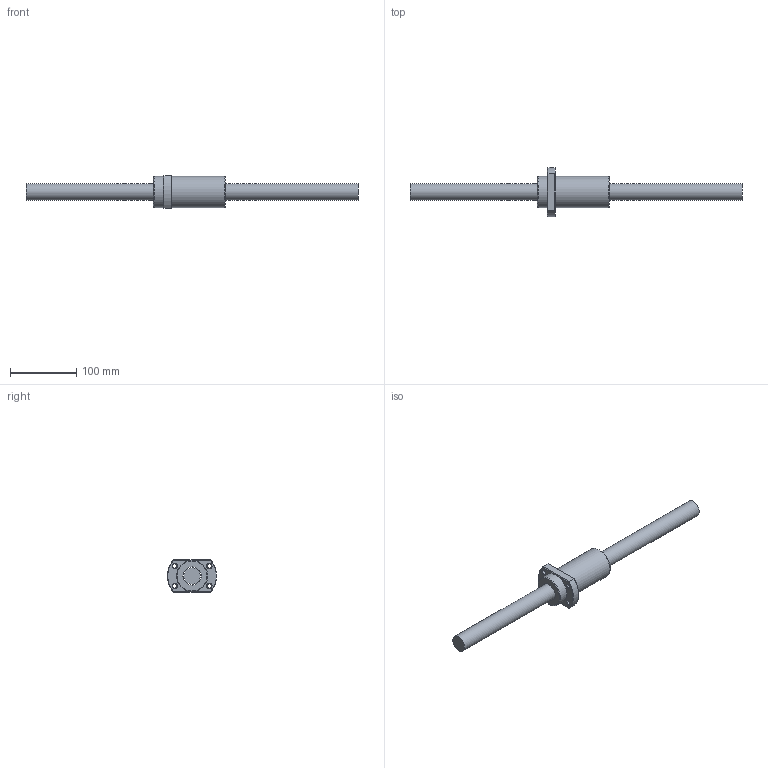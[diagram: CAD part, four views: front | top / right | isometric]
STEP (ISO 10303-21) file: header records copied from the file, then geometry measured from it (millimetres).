
FILE_DESCRIPTION (( 'STEP AP203' ), '1' );
FILE_NAME ('SFYA02550-3.6.step', '2024-05-22T07:52:05', ( '' ), ( '' ), 'SwSTEP 2.0', 'SolidWorks 2022', '' );
FILE_SCHEMA (( 'CONFIG_CONTROL_DESIGN' ));
Length unit declared in the file: millimetre
Products named in the file (1): SFYA02550-3.6
Bounding box: 500 x 73.88 x 49 mm (x, y, z)
Volume: 385727.1 mm3; surface area: 72549.8 mm2
Topology: 2 solids, 2 shells, 51 faces, 124 edges, 79 vertices
Faces by surface type: cylinder 18, plane 13, cone 9, torus 6, bspline 5
Full cylindrical faces by diameter (mm): 3 x1, 5 x6, 6.6 x4, 25 x1, 27.5 x1, 47 x2
Entity records: 3010 total; most frequent: CARTESIAN_POINT 2057, DIRECTION 170, ORIENTED_EDGE 156, EDGE_LOOP 80, EDGE_CURVE 78, AXIS2_PLACEMENT_3D 77, VERTEX_POINT 62, FACE_OUTER_BOUND 57
